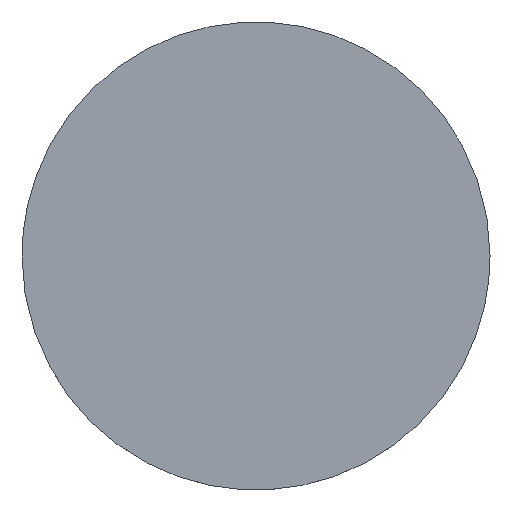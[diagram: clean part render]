
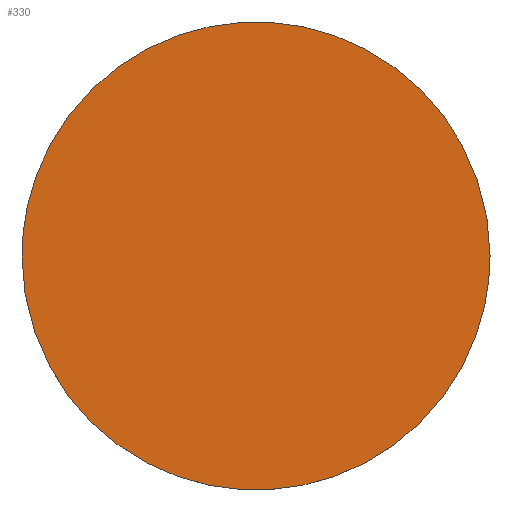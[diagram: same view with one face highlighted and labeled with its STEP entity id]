
A CAD part, top view. The second image highlights one B-rep face of the part: STEP entity #330.
In plain terms, the highlighted planar face has unit normal (0, 0, 1).
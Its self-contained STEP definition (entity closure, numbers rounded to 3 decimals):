
#330=ADVANCED_FACE('',(#478),#1900,.T.);
#478=FACE_OUTER_BOUND('',#626,.T.);
#626=EDGE_LOOP('',(#774,#775));
#774=ORIENTED_EDGE('',*,*,#1412,.T.);
#775=ORIENTED_EDGE('',*,*,#1415,.T.);
#1412=EDGE_CURVE('',#1734,#1737,#1730,.T.);
#1415=EDGE_CURVE('',#1737,#1734,#1733,.T.);
#1730=(
BOUNDED_CURVE()
B_SPLINE_CURVE(2,(#2253,#2254,#2255,#2256,#2257),.UNSPECIFIED.,.F.,.F.)
B_SPLINE_CURVE_WITH_KNOTS((3,2,3),(0.,706.858,1413.717),
 .UNSPECIFIED.)
CURVE()
GEOMETRIC_REPRESENTATION_ITEM()
RATIONAL_B_SPLINE_CURVE((1.,0.707,1.,0.707,1.))
REPRESENTATION_ITEM('')
);
#1733=(
BOUNDED_CURVE()
B_SPLINE_CURVE(2,(#2265,#2266,#2267,#2268,#2269),.UNSPECIFIED.,.F.,.F.)
B_SPLINE_CURVE_WITH_KNOTS((3,2,3),(1413.717,2120.575,2827.433),
 .UNSPECIFIED.)
CURVE()
GEOMETRIC_REPRESENTATION_ITEM()
RATIONAL_B_SPLINE_CURVE((1.,0.707,1.,0.707,1.))
REPRESENTATION_ITEM('')
);
#1734=VERTEX_POINT('',#2242);
#1737=VERTEX_POINT('',#2245);
#1900=PLANE('',#2018);
#2018=AXIS2_PLACEMENT_3D('',#2220,#2119,$);
#2119=DIRECTION('',(0.,0.,1.));
#2220=CARTESIAN_POINT('',(5841.646,213.5,320.));
#2242=CARTESIAN_POINT('',(6854.146,776.,320.));
#2245=CARTESIAN_POINT('',(5954.146,776.,320.));
#2253=CARTESIAN_POINT('',(6854.146,776.,320.));
#2254=CARTESIAN_POINT('',(6854.146,1226.,320.));
#2255=CARTESIAN_POINT('',(6404.146,1226.,320.));
#2256=CARTESIAN_POINT('',(5954.146,1226.,320.));
#2257=CARTESIAN_POINT('',(5954.146,776.,320.));
#2265=CARTESIAN_POINT('',(5954.146,776.,320.));
#2266=CARTESIAN_POINT('',(5954.146,326.,320.));
#2267=CARTESIAN_POINT('',(6404.146,326.,320.));
#2268=CARTESIAN_POINT('',(6854.146,326.,320.));
#2269=CARTESIAN_POINT('',(6854.146,776.,320.));
